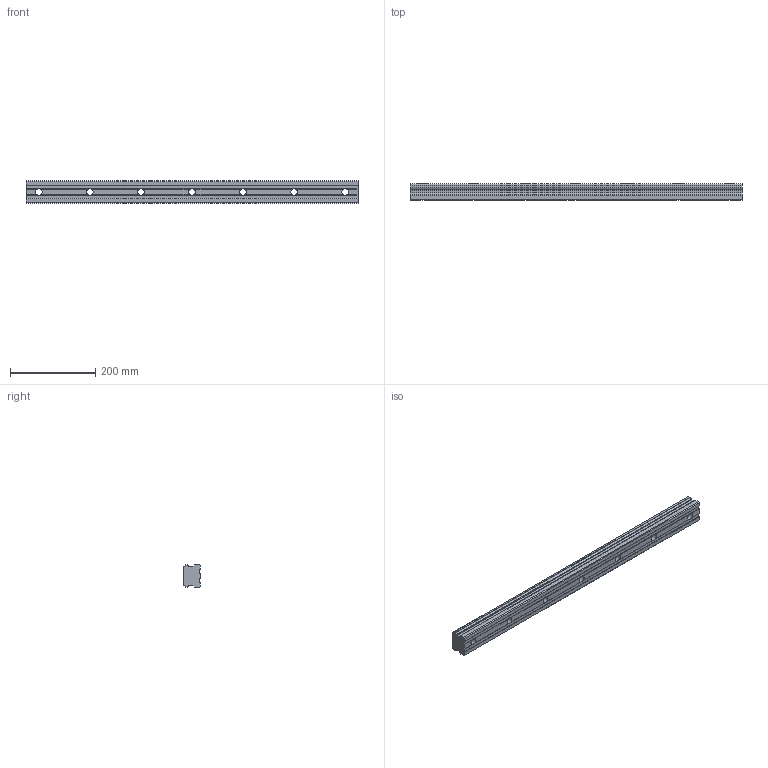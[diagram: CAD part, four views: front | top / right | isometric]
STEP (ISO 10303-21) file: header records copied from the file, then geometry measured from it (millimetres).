
FILE_DESCRIPTION(/* description */ ('STEP AP203'),/* implementation_level */ '2;1');
FILE_NAME(/* name */ 'SHS55-780L(GK) RAIL(30)',/* time_stamp */ '2024-05-14T03:43:04+02:00',/* author */ ('License CC BY-ND 4.0'),/* organization */ ('CADENAS'),/* preprocessor_version */ 'ST-DEVELOPER v19.3',/* originating_system */ 'PARTsolutions',/* authorisation */ ' ');
FILE_SCHEMA (('CONFIG_CONTROL_DESIGN'));
Length unit declared in the file: millimetre
Products named in the file (1): SHS55-780L(GK) RAIL(30)
Bounding box: 780 x 38 x 53 mm (x, y, z)
Volume: 1360122.6 mm3; surface area: 161409.8 mm2
Topology: 1 solids, 1 shells, 102 faces, 300 edges, 200 vertices
Faces by surface type: plane 52, cylinder 50
Full cylindrical faces by diameter (mm): 16 x7, 23 x7
Entity records: 3398 total; most frequent: CARTESIAN_POINT 659, DIRECTION 578, ORIENTED_EDGE 558, EDGE_CURVE 279, AXIS2_PLACEMENT_3D 224, VERTEX_POINT 193, LINE 130, VECTOR 130
